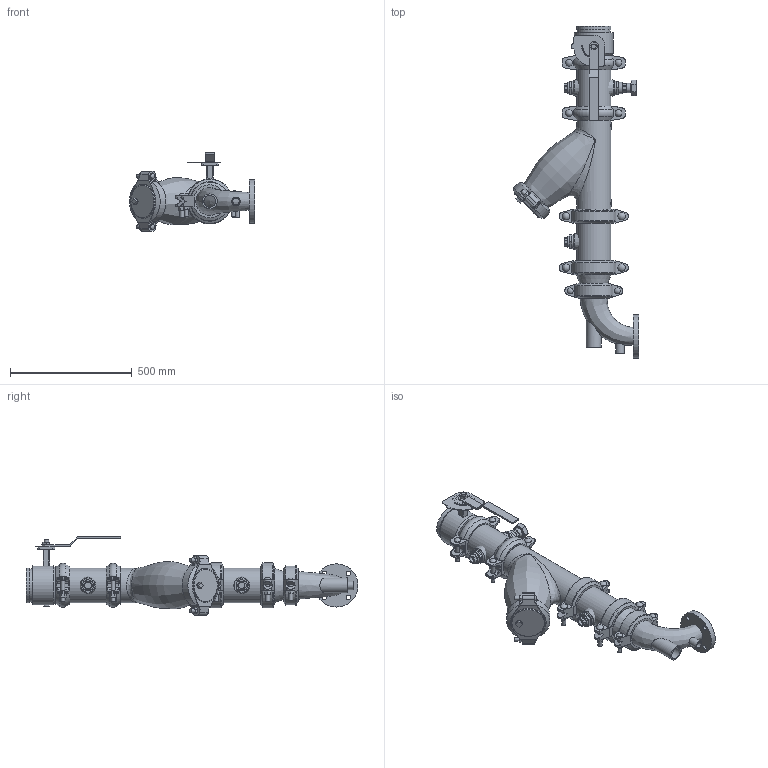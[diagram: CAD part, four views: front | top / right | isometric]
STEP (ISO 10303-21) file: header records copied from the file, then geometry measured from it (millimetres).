
FILE_DESCRIPTION(/* description */ ('VIC SVI PUMP DROP HORZ S/382 (OGSxFLG) (S/924-1.25)','CAx-IF Rec.Pracs.---Representation and Presentation of Product Manufacturing Information (PMI)---4.0---2014-10-13'),/* implementation_level */ '2;1');
FILE_NAME(/* name */ 'C:\Users\Vjadhav\AppData\Roaming\Autodesk\ApplicationPlugins\Victaulic.Temp\A562\Victaulic_IPS_Horizontal SVI_CL 150_Series 382 (OGSxFLG)_924 (1.25)_05.0x02.5 (125x65).stp',/* time_stamp */ '2022-02-28T19:58:09+05:00',/* author */ ('kkamble'),/* organization */ ('Victaulic'),/* preprocessor_version */ 'ST-DEVELOPER v17.2',/* originating_system */ 'Autodesk Inventor 2019',/* authorisation */ '');
FILE_SCHEMA (('AP242_MANAGED_MODEL_BASED_3D_ENGINEERING_MIM_LF { 1 0 10303 442 1 1 4 }'));
Length unit declared in the file: inch
Products named in the file (15): 382_924 (1.25)-05.0x02.5; PIPE-05.0; 107N-05.0; 732-05.0; 732-05.0_1; 07-05.0; 732-05.0_2; PIPE-05.2; 761-05.0; 924-04.0x01.25; 177N-04.0; 923-04.0x0.75; 050-05.0x04.0; 177N-05.0; R100F-04.0x02.5
Assembly tree (17 placements, depth 3):
  382_924 (1.25)-05.0x02.5
    PIPE-05.0
    107N-05.0  x2
    732-05.0
      732-05.0_1
      07-05.0
      732-05.0_2
    177N-05.0  x2
    PIPE-05.2
    761-05.0
    924-04.0x01.25
    923-04.0x0.75  x2
    177N-04.0
    050-05.0x04.0
    R100F-04.0x02.5
Bounding box: 514.35 x 1365.25 x 323.41 mm (x, y, z)
Volume: 10301753.5 mm3; surface area: 2320249.5 mm2
Topology: 16 solids, 20 shells, 1024 faces, 2646 edges, 1762 vertices
Faces by surface type: plane 550, cylinder 347, bspline 46, torus 36, cone 33, sphere 12
Full cylindrical faces by diameter (mm): 4.826 x10, 8.636 x4, 15.875 x14, 17.78 x4, 19.05 x6, 21.336 x1, 22.86 x1, 23.495 x2, 25.4 x3, 26.67 x4, 27.381 x4, 30.48 x4, 34.29 x1, 38.608 x1, 42.164 x1, 45.974 x6, 48.26 x1, 48.514 x1, 55.118 x1, 55.626 x3, 60.96 x1, 62.713 x1, 101.6 x1, 102.26 x2, 110.084 x2, 114.3 x5, 117.602 x1, 127.356 x1, 127.584 x1, 128.194 x4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
Entity records: 29214 total; most frequent: CARTESIAN_POINT 8918, DIRECTION 4115, ORIENTED_EDGE 3868, EDGE_CURVE 1934, AXIS2_PLACEMENT_3D 1555, VERTEX_POINT 1292, LINE 1005, VECTOR 1005
